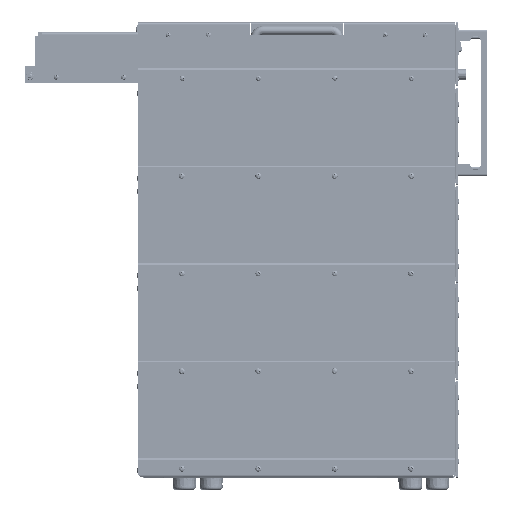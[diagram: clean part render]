
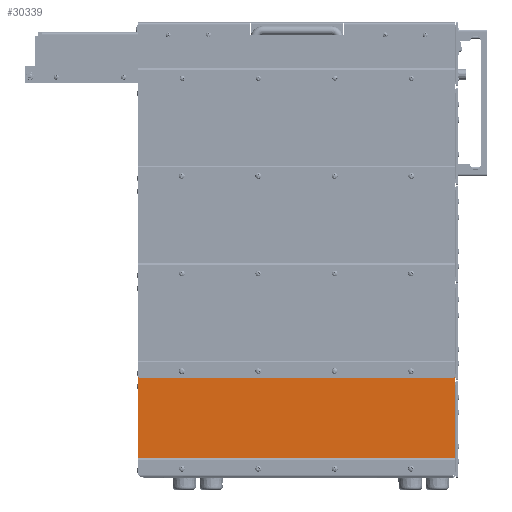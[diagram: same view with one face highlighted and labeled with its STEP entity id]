
A CAD part, left-side view. The second image highlights one B-rep face of the part: STEP entity #30339.
In plain terms, the highlighted planar face has unit normal (-1, 0, 0).
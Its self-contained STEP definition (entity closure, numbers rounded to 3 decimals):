
#30339=ADVANCED_FACE('',(#83612,#83613,#83614,#83615,#83616),#83617,.T.);
#83612=FACE_OUTER_BOUND('',#166317,.T.);
#83613=FACE_BOUND('',#166318,.T.);
#83614=FACE_BOUND('',#166319,.T.);
#83615=FACE_BOUND('',#166320,.T.);
#83616=FACE_BOUND('',#166321,.T.);
#83617=PLANE('',#166322);
#166317=EDGE_LOOP('',(#253800,#253801,#253802,#253803,#253804,#253805,#253806,#253807));
#166318=EDGE_LOOP('',(#253808,#253809));
#166319=EDGE_LOOP('',(#253810,#253811));
#166320=EDGE_LOOP('',(#253812,#253813));
#166321=EDGE_LOOP('',(#253814,#253815));
#166322=AXIS2_PLACEMENT_3D('',#253816,#253817,#253818);
#253800=ORIENTED_EDGE('',*,*,#454356,.F.);
#253801=ORIENTED_EDGE('',*,*,#454364,.T.);
#253802=ORIENTED_EDGE('',*,*,#454375,.F.);
#253803=ORIENTED_EDGE('',*,*,#454351,.F.);
#253804=ORIENTED_EDGE('',*,*,#454399,.T.);
#253805=ORIENTED_EDGE('',*,*,#454417,.F.);
#253806=ORIENTED_EDGE('',*,*,#454418,.F.);
#253807=ORIENTED_EDGE('',*,*,#454358,.F.);
#253808=ORIENTED_EDGE('',*,*,#454334,.T.);
#253809=ORIENTED_EDGE('',*,*,#454401,.T.);
#253810=ORIENTED_EDGE('',*,*,#454329,.T.);
#253811=ORIENTED_EDGE('',*,*,#454403,.T.);
#253812=ORIENTED_EDGE('',*,*,#454324,.T.);
#253813=ORIENTED_EDGE('',*,*,#454405,.T.);
#253814=ORIENTED_EDGE('',*,*,#454319,.T.);
#253815=ORIENTED_EDGE('',*,*,#454407,.T.);
#253816=CARTESIAN_POINT('',(546.234,604.229,-376.002));
#253817=DIRECTION('',(-1.0,0.,0.));
#253818=DIRECTION('',(0.,0.,1.0));
#454319=EDGE_CURVE('',#542183,#542180,#542184,.T.);
#454324=EDGE_CURVE('',#542192,#542189,#542193,.T.);
#454329=EDGE_CURVE('',#542201,#542198,#542202,.T.);
#454334=EDGE_CURVE('',#542210,#542207,#542211,.T.);
#454351=EDGE_CURVE('',#542239,#542235,#542241,.T.);
#454356=EDGE_CURVE('',#542248,#542244,#542250,.T.);
#454358=EDGE_CURVE('',#542244,#542252,#542253,.T.);
#454364=EDGE_CURVE('',#542248,#542260,#542262,.T.);
#454375=EDGE_CURVE('',#542235,#542260,#542275,.T.);
#454399=EDGE_CURVE('',#542239,#542305,#542307,.T.);
#454401=EDGE_CURVE('',#542207,#542210,#542309,.T.);
#454403=EDGE_CURVE('',#542198,#542201,#542311,.T.);
#454405=EDGE_CURVE('',#542189,#542192,#542313,.T.);
#454407=EDGE_CURVE('',#542180,#542183,#542315,.T.);
#454417=EDGE_CURVE('',#542325,#542305,#542326,.T.);
#454418=EDGE_CURVE('',#542252,#542325,#542327,.T.);
#542180=VERTEX_POINT('',#672898);
#542183=VERTEX_POINT('',#672902);
#542184=CIRCLE('',#672903,2.5);
#542189=VERTEX_POINT('',#672909);
#542192=VERTEX_POINT('',#672913);
#542193=CIRCLE('',#672914,2.5);
#542198=VERTEX_POINT('',#672920);
#542201=VERTEX_POINT('',#672924);
#542202=CIRCLE('',#672925,2.5);
#542207=VERTEX_POINT('',#672931);
#542210=VERTEX_POINT('',#672935);
#542211=CIRCLE('',#672936,2.5);
#542235=VERTEX_POINT('',#672965);
#542239=VERTEX_POINT('',#672970);
#542241=CIRCLE('',#672973,1.457);
#542244=VERTEX_POINT('',#672976);
#542248=VERTEX_POINT('',#672981);
#542250=CIRCLE('',#672984,2.538);
#542252=VERTEX_POINT('',#672986);
#542253=CIRCLE('',#672987,2.538);
#542260=VERTEX_POINT('',#672996);
#542262=LINE('',#672999,#673000);
#542275=CIRCLE('',#673016,1.457);
#542305=VERTEX_POINT('',#673055);
#542307=LINE('',#673058,#673059);
#542309=CIRCLE('',#673061,2.5);
#542311=CIRCLE('',#673063,2.5);
#542313=CIRCLE('',#673065,2.5);
#542315=CIRCLE('',#673067,2.5);
#542325=VERTEX_POINT('',#673077);
#542326=LINE('',#673078,#673079);
#542327=LINE('',#673080,#673081);
#672898=CARTESIAN_POINT('',(546.234,974.979,-320.577));
#672902=CARTESIAN_POINT('',(546.234,979.979,-320.577));
#672903=AXIS2_PLACEMENT_3D('',#841409,#841410,#841411);
#672909=CARTESIAN_POINT('',(546.234,870.559,-320.577));
#672913=CARTESIAN_POINT('',(546.234,875.559,-320.577));
#672914=AXIS2_PLACEMENT_3D('',#841417,#841418,#841419);
#672920=CARTESIAN_POINT('',(546.234,766.149,-320.577));
#672924=CARTESIAN_POINT('',(546.234,771.149,-320.577));
#672925=AXIS2_PLACEMENT_3D('',#841425,#841426,#841427);
#672931=CARTESIAN_POINT('',(546.234,661.729,-320.577));
#672935=CARTESIAN_POINT('',(546.234,666.729,-320.577));
#672936=AXIS2_PLACEMENT_3D('',#841433,#841434,#841435);
#672965=CARTESIAN_POINT('',(546.234,1037.053,-312.754));
#672970=CARTESIAN_POINT('',(546.234,1037.479,-313.784));
#672973=AXIS2_PLACEMENT_3D('',#841461,#841462,#841463);
#672976=CARTESIAN_POINT('',(546.234,604.973,-313.071));
#672981=CARTESIAN_POINT('',(546.234,606.767,-312.327));
#672984=AXIS2_PLACEMENT_3D('',#841469,#841470,#841471);
#672986=CARTESIAN_POINT('',(546.234,604.229,-314.865));
#672987=AXIS2_PLACEMENT_3D('',#841472,#841473,#841474);
#672996=CARTESIAN_POINT('',(546.234,1036.023,-312.327));
#672999=CARTESIAN_POINT('',(546.234,604.229,-312.327));
#673000=VECTOR('',#841481,1.0);
#673016=AXIS2_PLACEMENT_3D('',#841500,#841501,#841502);
#673055=CARTESIAN_POINT('',(546.234,1037.479,-439.677));
#673058=CARTESIAN_POINT('',(546.234,1037.479,-312.327));
#673059=VECTOR('',#841537,1.0);
#673061=AXIS2_PLACEMENT_3D('',#841538,#841539,#841540);
#673063=AXIS2_PLACEMENT_3D('',#841541,#841542,#841543);
#673065=AXIS2_PLACEMENT_3D('',#841544,#841545,#841546);
#673067=AXIS2_PLACEMENT_3D('',#841547,#841548,#841549);
#673077=CARTESIAN_POINT('',(546.234,604.229,-439.677));
#673078=CARTESIAN_POINT('',(546.234,604.229,-439.677));
#673079=VECTOR('',#841562,1.0);
#673080=CARTESIAN_POINT('',(546.234,604.229,-312.327));
#673081=VECTOR('',#841563,1.0);
#841409=CARTESIAN_POINT('',(546.234,977.479,-320.577));
#841410=DIRECTION('',(1.0,0.,0.));
#841411=DIRECTION('',(0.,-1.0,0.));
#841417=CARTESIAN_POINT('',(546.234,873.059,-320.577));
#841418=DIRECTION('',(1.0,0.,0.));
#841419=DIRECTION('',(0.,-1.0,0.));
#841425=CARTESIAN_POINT('',(546.234,768.649,-320.577));
#841426=DIRECTION('',(1.0,0.,0.));
#841427=DIRECTION('',(0.,-1.0,0.));
#841433=CARTESIAN_POINT('',(546.234,664.229,-320.577));
#841434=DIRECTION('',(1.0,0.,0.));
#841435=DIRECTION('',(0.,-1.0,0.));
#841461=CARTESIAN_POINT('',(546.234,1036.023,-313.784));
#841462=DIRECTION('',(1.0,0.,0.));
#841463=DIRECTION('',(0.,0.707,0.707));
#841469=CARTESIAN_POINT('',(546.234,606.767,-314.865));
#841470=DIRECTION('',(1.0,0.,0.));
#841471=DIRECTION('',(0.,-0.707,0.707));
#841472=CARTESIAN_POINT('',(546.234,606.767,-314.865));
#841473=DIRECTION('',(1.0,0.,0.));
#841474=DIRECTION('',(0.,-0.707,0.707));
#841481=DIRECTION('',(0.0,1.0,0.0));
#841500=CARTESIAN_POINT('',(546.234,1036.023,-313.784));
#841501=DIRECTION('',(1.0,0.,0.));
#841502=DIRECTION('',(0.,0.707,0.707));
#841537=DIRECTION('',(0.0,0.0,-1.0));
#841538=CARTESIAN_POINT('',(546.234,664.229,-320.577));
#841539=DIRECTION('',(1.0,0.,0.));
#841540=DIRECTION('',(0.,-1.0,0.));
#841541=CARTESIAN_POINT('',(546.234,768.649,-320.577));
#841542=DIRECTION('',(1.0,0.,0.));
#841543=DIRECTION('',(0.,-1.0,0.));
#841544=CARTESIAN_POINT('',(546.234,873.059,-320.577));
#841545=DIRECTION('',(1.0,0.,0.));
#841546=DIRECTION('',(0.,-1.0,0.));
#841547=CARTESIAN_POINT('',(546.234,977.479,-320.577));
#841548=DIRECTION('',(1.0,0.,0.));
#841549=DIRECTION('',(0.,-1.0,0.));
#841562=DIRECTION('',(0.0,1.0,0.0));
#841563=DIRECTION('',(0.0,0.0,-1.0));
